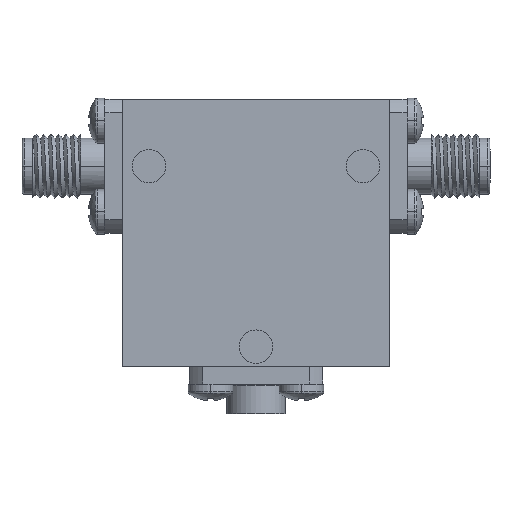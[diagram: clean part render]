
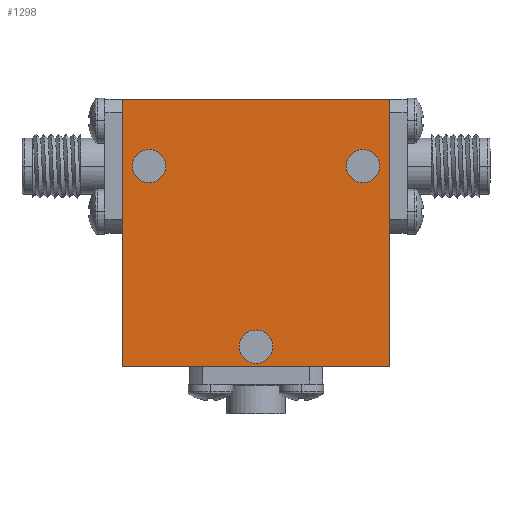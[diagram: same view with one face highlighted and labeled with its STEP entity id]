
A CAD part, top view. The second image highlights one B-rep face of the part: STEP entity #1298.
In plain terms, the highlighted planar face has unit normal (0, 0, 1).
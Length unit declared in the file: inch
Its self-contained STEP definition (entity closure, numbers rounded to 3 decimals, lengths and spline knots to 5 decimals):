
#7 = EDGE_CURVE ( 'NONE', #22, #5096, #2686, .T. ) ;
#22 = VERTEX_POINT ( 'NONE', #4953 ) ;
#41 = AXIS2_PLACEMENT_3D ( 'NONE', #3399, #4188, #2177 ) ;
#50 = CIRCLE ( 'NONE', #3201, 0.0625 ) ;
#65 = LINE ( 'NONE', #4534, #4218 ) ;
#123 = CARTESIAN_POINT ( 'NONE',  ( 0., -0.425, 0.25 ) ) ;
#231 = EDGE_CURVE ( 'NONE', #3352, #1357, #50, .T. ) ;
#295 = VERTEX_POINT ( 'NONE', #3049 ) ;
#337 = EDGE_LOOP ( 'NONE', ( #352, #2233 ) ) ;
#352 = ORIENTED_EDGE ( 'NONE', *, *, #4355, .F. ) ;
#356 = DIRECTION ( 'NONE',  ( 0., 0., 1. ) ) ;
#505 = VERTEX_POINT ( 'NONE', #4802 ) ;
#540 = EDGE_CURVE ( 'NONE', #2321, #3557, #4578, .T. ) ;
#718 = VECTOR ( 'NONE', #2900, 39.37008 ) ;
#752 = CARTESIAN_POINT ( 'NONE',  ( -0.0625, -0.425, 0.25 ) ) ;
#825 = DIRECTION ( 'NONE',  ( 1., 0., 0. ) ) ;
#861 = CARTESIAN_POINT ( 'NONE',  ( 0.4, 0.25, 0.25 ) ) ;
#867 = CIRCLE ( 'NONE', #1519, 0.0625 ) ;
#874 = DIRECTION ( 'NONE',  ( 1., 0., 0. ) ) ;
#896 = DIRECTION ( 'NONE',  ( 0., 0., 1. ) ) ;
#918 = FACE_BOUND ( 'NONE', #2612, .T. ) ;
#992 = EDGE_CURVE ( 'NONE', #5096, #22, #2420, .T. ) ;
#994 = CARTESIAN_POINT ( 'NONE',  ( -0.4, 0.25, 0.25 ) ) ;
#1006 = DIRECTION ( 'NONE',  ( 1., 0., 0. ) ) ;
#1152 = VERTEX_POINT ( 'NONE', #3109 ) ;
#1275 = VERTEX_POINT ( 'NONE', #3940 ) ;
#1298 = ADVANCED_FACE ( 'NONE', ( #4025, #4447, #918, #3899 ), #3580, .T. ) ;
#1357 = VERTEX_POINT ( 'NONE', #4032 ) ;
#1519 = AXIS2_PLACEMENT_3D ( 'NONE', #994, #5036, #1006 ) ;
#1571 = CARTESIAN_POINT ( 'NONE',  ( 0., 0., 0.25 ) ) ;
#1599 = DIRECTION ( 'NONE',  ( 1., 0., 0. ) ) ;
#1701 = DIRECTION ( 'NONE',  ( -1., 0., 0. ) ) ;
#1721 = CARTESIAN_POINT ( 'NONE',  ( -0.5, 0.5, 0.25 ) ) ;
#1849 = ORIENTED_EDGE ( 'NONE', *, *, #2162, .T. ) ;
#1917 = ORIENTED_EDGE ( 'NONE', *, *, #992, .F. ) ;
#1954 = CARTESIAN_POINT ( 'NONE',  ( -0.4625, 0.25, 0.25 ) ) ;
#1970 = DIRECTION ( 'NONE',  ( 1., 0., 0. ) ) ;
#2007 = EDGE_CURVE ( 'NONE', #505, #1152, #4636, .T. ) ;
#2036 = ORIENTED_EDGE ( 'NONE', *, *, #540, .F. ) ;
#2162 = EDGE_CURVE ( 'NONE', #295, #505, #2925, .T. ) ;
#2177 = DIRECTION ( 'NONE',  ( 1., 0., 0. ) ) ;
#2219 = AXIS2_PLACEMENT_3D ( 'NONE', #2762, #356, #1599 ) ;
#2233 = ORIENTED_EDGE ( 'NONE', *, *, #231, .F. ) ;
#2296 = CARTESIAN_POINT ( 'NONE',  ( 0.4, 0.25, 0.25 ) ) ;
#2321 = VERTEX_POINT ( 'NONE', #2494 ) ;
#2373 = CARTESIAN_POINT ( 'NONE',  ( 0.3375, 0.25, 0.25 ) ) ;
#2420 = CIRCLE ( 'NONE', #4054, 0.0625 ) ;
#2448 = AXIS2_PLACEMENT_3D ( 'NONE', #861, #4908, #825 ) ;
#2480 = DIRECTION ( 'NONE',  ( 1., 0., 0. ) ) ;
#2494 = CARTESIAN_POINT ( 'NONE',  ( -0.3375, 0.25, 0.25 ) ) ;
#2515 = AXIS2_PLACEMENT_3D ( 'NONE', #1571, #4397, #1970 ) ;
#2612 = EDGE_LOOP ( 'NONE', ( #2036, #3892 ) ) ;
#2686 = CIRCLE ( 'NONE', #41, 0.0625 ) ;
#2762 = CARTESIAN_POINT ( 'NONE',  ( -0.4, 0.25, 0.25 ) ) ;
#2879 = VECTOR ( 'NONE', #2480, 39.37008 ) ;
#2900 = DIRECTION ( 'NONE',  ( 0., -1., 0. ) ) ;
#2925 = LINE ( 'NONE', #1721, #4196 ) ;
#2930 = EDGE_LOOP ( 'NONE', ( #3722, #1849, #3626, #4301 ) ) ;
#3049 = CARTESIAN_POINT ( 'NONE',  ( 0.5, 0.5, 0.25 ) ) ;
#3109 = CARTESIAN_POINT ( 'NONE',  ( -0.5, -0.5, 0.25 ) ) ;
#3201 = AXIS2_PLACEMENT_3D ( 'NONE', #2296, #4250, #3917 ) ;
#3352 = VERTEX_POINT ( 'NONE', #2373 ) ;
#3399 = CARTESIAN_POINT ( 'NONE',  ( 0., -0.425, 0.25 ) ) ;
#3557 = VERTEX_POINT ( 'NONE', #1954 ) ;
#3580 = PLANE ( 'NONE',  #2515 ) ;
#3626 = ORIENTED_EDGE ( 'NONE', *, *, #2007, .T. ) ;
#3631 = EDGE_CURVE ( 'NONE', #3557, #2321, #867, .T. ) ;
#3722 = ORIENTED_EDGE ( 'NONE', *, *, #4515, .T. ) ;
#3826 = EDGE_CURVE ( 'NONE', #1152, #1275, #4664, .T. ) ;
#3892 = ORIENTED_EDGE ( 'NONE', *, *, #3631, .F. ) ;
#3899 = FACE_OUTER_BOUND ( 'NONE', #2930, .T. ) ;
#3900 = EDGE_LOOP ( 'NONE', ( #4759, #1917 ) ) ;
#3917 = DIRECTION ( 'NONE',  ( 1., 0., 0. ) ) ;
#3940 = CARTESIAN_POINT ( 'NONE',  ( 0.5, -0.5, 0.25 ) ) ;
#4025 = FACE_BOUND ( 'NONE', #337, .T. ) ;
#4032 = CARTESIAN_POINT ( 'NONE',  ( 0.4625, 0.25, 0.25 ) ) ;
#4054 = AXIS2_PLACEMENT_3D ( 'NONE', #123, #896, #874 ) ;
#4140 = CARTESIAN_POINT ( 'NONE',  ( -0.5, 0.5, 0.25 ) ) ;
#4188 = DIRECTION ( 'NONE',  ( 0., 0., 1. ) ) ;
#4196 = VECTOR ( 'NONE', #1701, 39.37008 ) ;
#4218 = VECTOR ( 'NONE', #5001, 39.37008 ) ;
#4250 = DIRECTION ( 'NONE',  ( 0., 0., 1. ) ) ;
#4301 = ORIENTED_EDGE ( 'NONE', *, *, #3826, .T. ) ;
#4344 = CIRCLE ( 'NONE', #2448, 0.0625 ) ;
#4355 = EDGE_CURVE ( 'NONE', #1357, #3352, #4344, .T. ) ;
#4397 = DIRECTION ( 'NONE',  ( 0., 0., 1. ) ) ;
#4447 = FACE_BOUND ( 'NONE', #3900, .T. ) ;
#4515 = EDGE_CURVE ( 'NONE', #1275, #295, #65, .T. ) ;
#4534 = CARTESIAN_POINT ( 'NONE',  ( 0.5, 0.5, 0.25 ) ) ;
#4578 = CIRCLE ( 'NONE', #2219, 0.0625 ) ;
#4636 = LINE ( 'NONE', #4140, #718 ) ;
#4664 = LINE ( 'NONE', #5199, #2879 ) ;
#4759 = ORIENTED_EDGE ( 'NONE', *, *, #7, .F. ) ;
#4802 = CARTESIAN_POINT ( 'NONE',  ( -0.5, 0.5, 0.25 ) ) ;
#4908 = DIRECTION ( 'NONE',  ( 0., 0., 1. ) ) ;
#4953 = CARTESIAN_POINT ( 'NONE',  ( 0.0625, -0.425, 0.25 ) ) ;
#5001 = DIRECTION ( 'NONE',  ( 0., 1., 0. ) ) ;
#5036 = DIRECTION ( 'NONE',  ( 0., 0., 1. ) ) ;
#5096 = VERTEX_POINT ( 'NONE', #752 ) ;
#5199 = CARTESIAN_POINT ( 'NONE',  ( -0.5, -0.5, 0.25 ) ) ;
